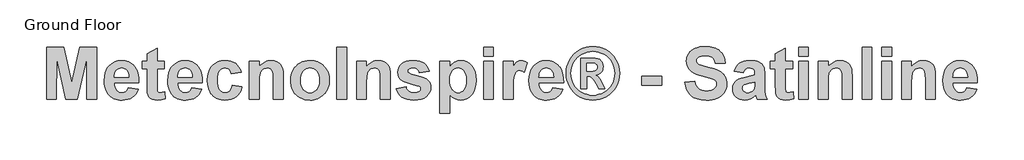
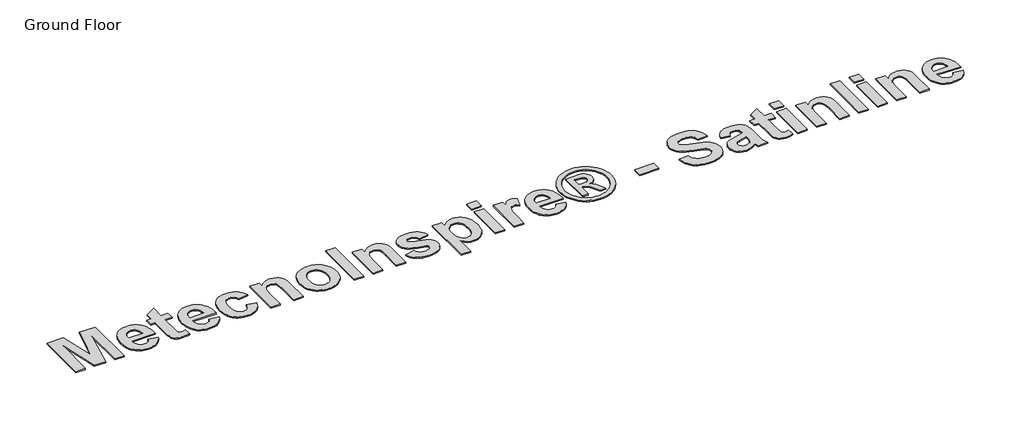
# One storey, part 5 of 14: 1 proxy.
"""IFC4 building model written with IfcOpenShell, lengths in millimetres."""

from ifc_helpers import new_model, si_unit, origin, origin_with_axes, place, context, project, spatial, polyline, outline, extrude, element, save

model = new_model("IFC4")

# Units and contexts
model_context = context("Model", 3, world=origin())
ifc_project = project(units=[si_unit("LENGTHUNIT", "METRE", prefix="MILLI")], contexts=[model_context])

# Site, building, storey
site = spatial("IfcSite", under=ifc_project)
building = spatial("IfcBuilding", under=site)
storey = spatial("IfcBuildingStorey", under=building, Name="Ground Floor", Elevation=0.0)

# Proxy
placement = place(None, origin())
element("IfcBuildingElementProxy", 1, Name="900mm Arial", ObjectType="900mm Arial", at=placement, inside=storey, context=model_context, shape_type="SweptSolid", body=[
    extrude(outline(polyline([(307.0358662, -102573.895371), (307.0358662, -101651.9315876), (607.954601, -101651.9315876), (753.3834121, -102280.7511323), (898.8122232, -101651.9315876), (1199.730958, -101651.9315876), (1199.730958, -102573.895371), (1024.1188088, -102573.895371), (1016.8016359, -101848.1232855), (856.2811558, -102573.895371), (650.7143301, -102573.895371), (489.9651883, -101848.1232855), (482.6480154, -102573.895371), (307.0358662, -102573.895371)])), origin_with_axes(), (0.0, 0.0, 1.0), 20.0),
    extrude(outline(polyline([(1755.8360972, -102369.0145302), (1931.4482464, -102398.2832217), (1912.4693293, -102442.0361998), (1888.6885174, -102480.2298415), (1860.1058108, -102512.8641467), (1826.7212095, -102539.9391155), (1788.6919184, -102561.1975036), (1746.1751424, -102576.3820664), (1699.1708814, -102585.4928041), (1647.6791355, -102588.5297167), (1606.5307566, -102586.7397247), (1568.1477545, -102581.3697487), (1532.5301292, -102572.4197887), (1499.6778809, -102559.8898447), (1469.5910093, -102543.7799167), (1442.2695147, -102524.0900047), (1417.7133969, -102500.8201087), (1395.922656, -102473.9702288), (1367.7115246, -102425.1080919), (1347.5607165, -102370.2150039), (1335.4702316, -102309.2909648), (1331.4400699, -102242.3359746), (1336.7850361, -102163.3905391), (1352.8199345, -102093.4772388), (1364.8461083, -102061.9076394), (1379.5447651, -102032.5960738), (1396.915905, -102005.542542), (1416.959528, -101980.747044), (1462.548945, -101939.3307022), (1487.4659195, -101923.0599965), (1513.7977379, -101909.7476009), (1541.5444003, -101899.3935154), (1570.7059067, -101891.9977401), (1633.2734514, -101886.0811199), (1669.0054075, -101887.5995761), (1702.8008852, -101892.154945), (1734.6598845, -101899.7472264), (1764.5824054, -101910.3764204), (1792.568448, -101924.042527), (1818.6180122, -101940.7455462), (1842.7310981, -101960.4854779), (1864.9077055, -101983.2623222), (1884.7333854, -102009.1761186), (1901.7936884, -102038.3269064), (1916.0886145, -102070.7146858), (1927.6181638, -102106.3394567), (1936.3823362, -102145.2012192), (1942.3811317, -102187.2999731), (1946.0825922, -102281.2084556), (1507.0522192, -102281.2084556), (1510.3249391, -102320.5096771), (1518.3138055, -102355.1805002), (1531.0188186, -102385.2209248), (1548.4399783, -102410.630951), (1569.4339763, -102430.8389245), (1592.8575043, -102445.2731914), (1618.7105624, -102453.9337514), (1646.9931506, -102456.8206048), (1683.8648421, -102451.6185522), (1714.4483381, -102436.0123944), (1727.3248474, -102424.021949), (1738.514977, -102408.8588232), (1755.8360972, -102369.0145302)]), holes=[polyline([(1770.470443, -102178.7680352), (1767.3406366, -102141.6891191), (1759.7805107, -102109.3406409), (1747.7900653, -102081.7226007), (1731.3693004, -102058.8349984), (1711.732981, -102040.877913), (1690.0958721, -102028.0514234), (1666.4579737, -102020.3555297), (1640.8192859, -102017.7902318), (1613.5799666, -102020.4912975), (1588.79876, -102028.5944949), (1566.4756661, -102042.0998237), (1546.6106851, -102061.0072841), (1530.4328731, -102084.6594738), (1518.9426251, -102112.1703289), (1512.1399409, -102143.5398494), (1510.0248206, -102178.7680352), (1770.470443, -102178.7680352)])]), origin_with_axes(), (0.0, 0.0, 1.0), 20.0),
    extrude(outline(polyline([(2399.747311, -101900.7154656), (2399.747311, -102032.4245775), (2268.0381991, -102032.4245775), (2268.0381991, -102321.2242448), (2269.0385938, -102390.5373083), (2272.039778, -102423.3216727), (2278.5852178, -102436.5840486), (2290.2183794, -102447.3311462), (2305.938868, -102454.4482402), (2324.746289, -102456.8206048), (2359.5028602, -102452.5903642), (2407.0644839, -102439.8996425), (2414.3816568, -102564.7489048), (2381.5544183, -102575.15301), (2346.6406422, -102582.5845138), (2270.5534773, -102588.5297167), (2223.7921693, -102584.413807), (2181.8327561, -102572.0660777), (2147.5620909, -102553.2014914), (2123.8670271, -102529.5350103), (2108.2322866, -102498.8371835), (2098.1425912, -102458.8785597), (2093.8551852, -102411.1454397), (2092.4260499, -102331.0566959), (2092.4260499, -102032.4245775), (2004.6199753, -102032.4245775), (2004.6199753, -101900.7154656), (2092.4260499, -101900.7154656), (2092.4260499, -101769.0063537), (2268.0381991, -101666.5659333), (2268.0381991, -101900.7154656), (2399.747311, -101900.7154656)])), origin_with_axes(), (0.0, 0.0, 1.0), 20.0),
    extrude(outline(polyline([(2882.6807214, -102369.0145302), (3058.2928706, -102398.2832217), (3039.3139534, -102442.0361998), (3015.5331415, -102480.2298415), (2986.950435, -102512.8641467), (2953.5658337, -102539.9391155), (2915.5365426, -102561.1975036), (2873.0197665, -102576.3820664), (2826.0155056, -102585.4928041), (2774.5237597, -102588.5297167), (2733.3753807, -102586.7397247), (2694.9923786, -102581.3697487), (2659.3747534, -102572.4197887), (2626.522505, -102559.8898447), (2596.4356335, -102543.7799167), (2569.1141388, -102524.0900047), (2544.5580211, -102500.8201087), (2522.7672801, -102473.9702288), (2494.5561487, -102425.1080919), (2474.4053406, -102370.2150039), (2462.3148557, -102309.2909648), (2458.2846941, -102242.3359746), (2463.6296602, -102163.3905391), (2479.6645586, -102093.4772388), (2491.6907324, -102061.9076394), (2506.3893893, -102032.5960738), (2523.7605292, -102005.542542), (2543.8041522, -101980.747044), (2589.3935692, -101939.3307022), (2614.3105436, -101923.0599965), (2640.6423621, -101909.7476009), (2668.3890245, -101899.3935154), (2697.5505309, -101891.9977401), (2760.1180756, -101886.0811199), (2795.8500316, -101887.5995761), (2829.6455093, -101892.154945), (2861.5045086, -101899.7472264), (2891.4270296, -101910.3764204), (2919.4130722, -101924.042527), (2945.4626364, -101940.7455462), (2969.5757222, -101960.4854779), (2991.7523297, -101983.2623222), (3011.5780095, -102009.1761186), (3028.6383125, -102038.3269064), (3042.9332386, -102070.7146858), (3054.4627879, -102106.3394567), (3063.2269603, -102145.2012192), (3069.2257558, -102187.2999731), (3072.9272163, -102281.2084556), (2633.8968433, -102281.2084556), (2637.1695632, -102320.5096771), (2645.1584297, -102355.1805002), (2657.8634428, -102385.2209248), (2675.2846024, -102410.630951), (2696.2786004, -102430.8389245), (2719.7021285, -102445.2731914), (2745.5551866, -102453.9337514), (2773.8377747, -102456.8206048), (2810.7094662, -102451.6185522), (2841.2929622, -102436.0123944), (2854.1694716, -102424.021949), (2865.3596012, -102408.8588232), (2882.6807214, -102369.0145302)]), holes=[polyline([(2897.3150671, -102178.7680352), (2894.1852608, -102141.6891191), (2886.6251349, -102109.3406409), (2874.6346895, -102081.7226007), (2858.2139245, -102058.8349984), (2838.5776051, -102040.877913), (2816.9404962, -102028.0514234), (2793.3025979, -102020.3555297), (2767.6639101, -102017.7902318), (2740.4245907, -102020.4912975), (2715.6433841, -102028.5944949), (2693.3202903, -102042.0998237), (2673.4553092, -102061.0072841), (2657.2774973, -102084.6594738), (2645.7872492, -102112.1703289), (2638.9845651, -102143.5398494), (2636.8694448, -102178.7680352), (2897.3150671, -102178.7680352)])]), origin_with_axes(), (0.0, 0.0, 1.0), 20.0),
    extrude(outline(polyline([(3760.7414675, -102090.9619606), (3585.1293182, -102120.2306521), (3579.7057497, -102096.3140724), (3571.6668634, -102075.5558818), (3561.0126596, -102057.9560802), (3547.743138, -102043.5146677), (3532.0726691, -102032.260227), (3514.2156232, -102024.2213407), (3494.1720002, -102019.398009), (3471.9418002, -102017.7902318), (3442.5301951, -102020.8057073), (3416.2626878, -102029.8521339), (3393.1392781, -102044.9295117), (3373.1599662, -102066.0378405), (3357.0536111, -102094.2060978), (3345.5490717, -102130.4632611), (3338.6463481, -102174.8093304), (3336.3454402, -102227.2443056), (3338.7392419, -102285.5101529), (3345.9206469, -102334.5437861), (3357.8896553, -102374.345205), (3374.646267, -102404.9144097), (3395.4330403, -102427.62337), (3419.4925336, -102443.844056), (3446.8247468, -102453.5764676), (3477.4296798, -102456.8206048), (3500.4601957, -102454.9698746), (3521.3041344, -102449.4176838), (3539.9614962, -102440.1640326), (3556.4322808, -102427.2089208), (3570.6736144, -102409.72345), (3582.6426228, -102386.8787218), (3592.339306, -102358.6747361), (3599.763664, -102325.1114929), (3775.3758132, -102354.3801844), (3759.1908556, -102408.7945121), (3736.9320729, -102456.1060371), (3708.599465, -102496.3147596), (3674.1930319, -102529.4206795), (3633.5698602, -102555.2808833), (3586.5870363, -102573.7524574), (3533.2445601, -102584.8354019), (3473.5424318, -102588.5297167), (3405.7085234, -102582.7131359), (3374.5087127, -102575.4424099), (3345.1203311, -102565.2633936), (3317.5433785, -102552.1760868), (3291.7778549, -102536.1804896), (3267.8237604, -102517.2766021), (3245.6810949, -102495.4644241), (3225.7714534, -102471.0833754), (3208.5164307, -102444.4728756), (3193.9160269, -102415.6329246), (3181.9702419, -102384.5635226), (3166.0425287, -102315.7363651), (3160.733291, -102237.9914032), (3166.0068003, -102159.3675231), (3181.8273284, -102089.9615659), (3193.6927245, -102058.7153083), (3208.1948752, -102029.7735315), (3225.3337807, -102003.1362354), (3245.1094408, -101978.80342), (3267.135989, -101957.0716309), (3291.0275589, -101938.2374137), (3316.7841504, -101922.3007683), (3344.4057634, -101909.2616949), (3373.8923981, -101899.1201933), (3405.2440544, -101891.8762636), (3473.5424318, -101886.0811199), (3529.4073318, -101889.2466546), (3579.2412807, -101898.7432589), (3623.0442785, -101914.5709326), (3660.8163253, -101936.7296759), (3693.129075, -101965.3624022), (3720.554182, -102000.6120251), (3743.0916461, -102042.4785446), (3760.7414675, -102090.9619606)])), origin_with_axes(), (0.0, 0.0, 1.0), 20.0),
    extrude(outline(polyline([(4507.0931016, -102573.895371), (4331.4809524, -102573.895371), (4331.4809524, -102227.9302905), (4328.7370126, -102137.3802761), (4320.5051931, -102085.7027426), (4306.0423436, -102057.0628706), (4284.6053136, -102035.6258407), (4257.2230807, -102022.249134), (4224.9246223, -102017.7902318), (4203.0945801, -102019.3837177), (4182.4221376, -102024.1641753), (4162.9072947, -102032.1316048), (4144.5500514, -102043.286006), (4128.1721605, -102057.077162), (4114.5953749, -102072.9548555), (4103.8196945, -102090.9190865), (4095.8451194, -102110.9698552), (4085.9840856, -102171.0221217), (4082.6970743, -102266.8027715), (4082.6970743, -102573.895371), (3907.0849251, -102573.895371), (3907.0849251, -101900.7154656), (4082.6970743, -101900.7154656), (4082.6970743, -101997.6680063), (4104.2377166, -101971.5148298), (4127.1288917, -101948.8487435), (4151.3705997, -101929.6697474), (4176.9628406, -101913.9778415), (4203.9056144, -101901.7730258), (4232.1989211, -101893.0553003), (4261.8427607, -101887.824665), (4292.8371331, -101886.0811199), (4346.229629, -101891.3975033), (4394.8202302, -101907.3466535), (4435.4076735, -101931.5276233), (4464.7906959, -101961.5394652), (4484.941504, -101996.6676116), (4497.8323047, -102036.1974948), (4504.7779024, -102086.9889644), (4507.0931016, -102155.90187), (4507.0931016, -102573.895371)])), origin_with_axes(), (0.0, 0.0, 1.0), 20.0),
    extrude(outline(polyline([(4638.8022135, -102227.7016289), (4641.510425, -102183.8057372), (4649.6350593, -102140.6101219), (4663.1761166, -102098.1147829), (4682.1335967, -102056.3197202), (4706.0501764, -102017.3257628), (4734.4685325, -101983.2337395), (4767.3886648, -101954.0436504), (4804.8105733, -101929.7554955), (4845.6409697, -101910.6479562), (4888.7865653, -101896.9997138), (4934.2473601, -101888.8107683), (4982.0233541, -101886.0811199), (5019.0111629, -101887.6281588), (5054.287582, -101892.2692758), (5087.8526117, -101900.0044708), (5119.7062517, -101910.8337437), (5149.8485022, -101924.7570947), (5178.2793632, -101941.7745236), (5204.9988346, -101961.8860305), (5230.0069164, -101985.0916154), (5252.6497793, -102010.6624193), (5272.2735938, -102037.8695831), (5288.8783599, -102066.7131069), (5302.4640776, -102097.1929906), (5313.0307469, -102129.3092343), (5320.5783679, -102163.0618379), (5326.6164646, -102235.4761251), (5325.0908627, -102272.7890621), (5320.5140568, -102308.469212), (5312.886047, -102342.5165748), (5302.2068332, -102374.9311505), (5288.4764155, -102405.712939), (5271.6947939, -102434.8619405), (5251.8619684, -102462.3781548), (5228.977939, -102488.261582), (5203.7822831, -102511.7619261), (5177.0145784, -102532.128891), (5148.6748248, -102549.3624766), (5118.7630224, -102563.4626831), (5087.2791711, -102574.4295103), (5054.2232709, -102582.2629583), (5019.5953219, -102586.9630271), (4983.395324, -102588.5297167), (4938.0845884, -102585.9215447), (4893.8457043, -102578.0970288), (4850.6786717, -102565.0561689), (4808.5834906, -102546.7989651), (4769.5109307, -102523.4969136), (4735.4117618, -102495.3215106), (4706.2859838, -102462.2727561), (4682.1335967, -102424.3506501), (4663.1761166, -102381.791), (4649.6350593, -102334.8296131), (4641.510425, -102283.4664894), (4638.8022135, -102227.7016289)]), holes=[polyline([(4814.4143628, -102237.3054183), (4817.4512753, -102287.3608832), (4826.5620131, -102331.1996094), (4841.7465759, -102368.8215969), (4863.0049639, -102400.2268458), (4888.7222542, -102424.9866154), (4917.2835237, -102442.6721651), (4948.6887726, -102453.2834949), (4982.9380007, -102456.8206048), (5017.1729375, -102453.2834949), (5048.5353123, -102442.6721651), (5077.0251251, -102424.9866154), (5102.6423759, -102400.2268458), (5123.8007244, -102368.7358488), (5138.9138305, -102330.8566169), (5147.9816942, -102286.5891501), (5151.0043154, -102235.9334484), (5147.9816942, -102186.4782203), (5138.9138305, -102143.0682347), (5123.8007244, -102105.7034915), (5102.6423759, -102074.3839908), (5077.0251251, -102049.6242212), (5048.5353123, -102031.9386715), (5017.1729375, -102021.3273417), (4982.9380007, -102017.7902318), (4948.6887726, -102021.3273417), (4917.2835237, -102031.9386715), (4888.7222542, -102049.6242212), (4863.0049639, -102074.3839908), (4841.7465759, -102105.7892396), (4826.5620131, -102143.4112272), (4817.4512753, -102187.2499534), (4814.4143628, -102237.3054183)])]), origin_with_axes(), (0.0, 0.0, 1.0), 20.0),
    extrude(outline(polyline([(5458.3255766, -102573.895371), (5458.3255766, -101651.9315876), (5633.9377258, -101651.9315876), (5633.9377258, -102573.895371), (5458.3255766, -102573.895371)])), origin_with_axes(), (0.0, 0.0, 1.0), 20.0),
    extrude(outline(polyline([(6409.5580515, -102573.895371), (6233.9459023, -102573.895371), (6233.9459023, -102227.9302905), (6231.2019624, -102137.3802761), (6222.9701429, -102085.7027426), (6208.5072934, -102057.0628706), (6187.0702635, -102035.6258407), (6159.6880306, -102022.249134), (6127.3895721, -102017.7902318), (6105.55953, -102019.3837177), (6084.8870875, -102024.1641753), (6065.3722445, -102032.1316048), (6047.0150012, -102043.286006), (6030.6371104, -102057.077162), (6017.0603247, -102072.9548555), (6006.2846444, -102090.9190865), (5998.3100692, -102110.9698552), (5988.4490355, -102171.0221217), (5985.1620242, -102266.8027715), (5985.1620242, -102573.895371), (5809.549875, -102573.895371), (5809.549875, -101900.7154656), (5985.1620242, -101900.7154656), (5985.1620242, -101997.6680063), (6006.7026665, -101971.5148298), (6029.5938416, -101948.8487435), (6053.8355496, -101929.6697474), (6079.4277905, -101913.9778415), (6106.3705643, -101901.7730258), (6134.663871, -101893.0553003), (6164.3077105, -101887.824665), (6195.302083, -101886.0811199), (6248.6945789, -101891.3975033), (6297.28518, -101907.3466535), (6337.8726234, -101931.5276233), (6367.2556457, -101961.5394652), (6387.4064539, -101996.6676116), (6400.2972546, -102036.1974948), (6407.2428522, -102086.9889644), (6409.5580515, -102155.90187), (6409.5580515, -102573.895371)])), origin_with_axes(), (0.0, 0.0, 1.0), 20.0),
    extrude(outline(polyline([(6511.9984719, -102383.648876), (6687.6106211, -102354.3801844), (6694.5347817, -102378.0180828), (6704.3315044, -102398.6262142), (6717.0007891, -102416.2045788), (6732.5426358, -102430.7531764), (6751.1999975, -102442.1576763), (6773.2158273, -102450.3037477), (6798.590125, -102455.1913905), (6827.3228908, -102456.8206048), (6858.7495767, -102455.2628473), (6886.0317701, -102450.5895748), (6909.1694711, -102442.8007872), (6928.1626796, -102431.8964847), (6945.3123036, -102411.5455976), (6951.0288449, -102385.2495075), (6947.999078, -102367.0709062), (6938.9097773, -102352.3222296), (6918.1587323, -102340.2603274), (6881.5157025, -102329.2274026), (6787.2070621, -102306.2754893), (6711.9059217, -102284.2953879), (6655.6122811, -102263.2870986), (6618.3261403, -102243.2506213), (6584.6128379, -102213.3959842), (6560.5319076, -102178.2535465), (6546.0833495, -102137.823308), (6541.2671634, -102092.1052689), (6545.3973645, -102050.2744778), (6557.7879678, -102011.9021942), (6578.4389733, -101976.9884181), (6607.350381, -101945.5331495), (6644.9509315, -101919.5228865), (6691.6693654, -101900.9441273), (6747.5056827, -101889.7968717), (6812.4598834, -101886.0811199), (6874.2985691, -101889.082304), (6927.6481909, -101898.0858566), (6972.5087489, -101913.0917776), (7008.880243, -101934.1000669), (7038.5062184, -101960.9963938), (7063.1302201, -101993.6664274), (7082.7522482, -102032.1101678), (7097.3723026, -102076.3276148), (6921.7601534, -102105.5963064), (6908.84077, -102068.0386299), (6887.9182288, -102040.4277354), (6874.1413642, -102030.5238275), (6857.7348906, -102023.4496077), (6817.0331165, -102017.7902318), (6767.01338, -102022.5921265), (6748.2202504, -102028.5944949), (6733.5716133, -102036.9978106), (6721.0523878, -102052.7754646), (6716.8793126, -102072.6690284), (6721.0523878, -102089.8758178), (6733.5716133, -102104.4529981), (6751.6859035, -102114.0424962), (6783.6199325, -102125.4327047), (6888.9472062, -102153.6152534), (6950.407171, -102170.4361762), (7001.8203145, -102189.114975), (7043.1866366, -102209.6516497), (7074.5061373, -102232.0462003), (7097.3151372, -102258.0421719), (7113.6072799, -102288.6971247), (7123.3825656, -102324.0110587), (7126.6409941, -102363.9839738), (7121.9177019, -102408.4372282), (7107.7478251, -102449.6463455), (7084.1313638, -102487.6113255), (7051.0683179, -102522.3321683), (7008.7444752, -102551.2935957), (6957.3456231, -102571.9803296), (6896.8717616, -102584.3923699), (6827.3228908, -102588.5297167), (6763.6048922, -102585.0855006), (6706.903948, -102574.7528522), (6657.2200583, -102557.5317714), (6614.5532231, -102533.4222584), (6578.7748201, -102503.3961252), (6549.7562272, -102468.4251837), (6527.4974445, -102428.5094339), (6511.9984719, -102383.648876)])), origin_with_axes(), (0.0, 0.0, 1.0), 20.0),
    extrude(outline(polyline([(7287.6187976, -101900.7154656), (7463.2309468, -101900.7154656), (7463.2309468, -101997.6680063), (7480.0232869, -101973.9300685), (7499.5309841, -101952.5644954), (7521.7540385, -101933.5712868), (7546.69245, -101916.950443), (7573.7173991, -101903.4451141), (7602.2000662, -101893.7984506), (7632.1404513, -101888.0104525), (7663.5385545, -101886.0811199), (7717.3383539, -101891.8190982), (7766.9222042, -101909.0330332), (7812.2901052, -101937.722925), (7853.442057, -101977.8887734), (7871.7439213, -102001.9643444), (7887.605537, -102028.2872308), (7912.0080228, -102087.6749493), (7926.6495142, -102156.0519292), (7931.5300114, -102233.4181702), (7926.4923093, -102312.978134), (7911.3792032, -102383.1343872), (7900.0443737, -102414.6861225), (7886.1906931, -102443.8869301), (7869.8181614, -102470.7368101), (7850.9267788, -102495.2357625), (7808.4886052, -102536.0518674), (7761.777317, -102565.2062282), (7710.7929141, -102582.6988446), (7655.5353966, -102588.5297167), (7603.4577053, -102583.0990025), (7556.5249011, -102566.8068597), (7511.0212322, -102537.3095065), (7463.2309468, -102492.263161), (7463.2309468, -102822.679249), (7287.6187976, -102822.679249), (7287.6187976, -101900.7154656)]), holes=[polyline([(7463.2309468, -102225.643674), (7465.9820323, -102280.8940458), (7474.2352888, -102328.4270869), (7487.9907164, -102368.2427971), (7507.2483149, -102400.3411766), (7530.4646183, -102425.0509264), (7556.0961605, -102442.7007478), (7584.1429413, -102453.2906405), (7614.6049608, -102456.8206048), (7643.637845, -102453.5836133), (7670.1411597, -102443.8726387), (7694.1149049, -102427.6876811), (7715.5590805, -102405.0287405), (7733.2160475, -102374.9811702), (7745.8281667, -102336.6303236), (7753.3954383, -102289.9762008), (7755.9178622, -102235.0188018), (7753.3239815, -102183.4555991), (7745.5423397, -102138.9809077), (7732.5729366, -102101.5947275), (7714.4157722, -102071.2970585), (7692.4142338, -102047.8878218), (7667.9117086, -102031.1669384), (7640.9081966, -102021.1344084), (7611.4036977, -102017.7902318), (7580.85593, -102021.0700973), (7553.0092282, -102030.9096941), (7527.863592, -102047.309022), (7505.4190217, -102070.268081), (7486.9617389, -102099.6582491), (7473.7779655, -102135.3509039), (7465.8677015, -102177.3460456), (7463.2309468, -102225.643674)])]), origin_with_axes(), (0.0, 0.0, 1.0), 20.0),
    extrude(outline(polyline([(8063.2391233, -101812.909391), (8063.2391233, -101651.9315876), (8238.8512725, -101651.9315876), (8238.8512725, -101812.909391), (8063.2391233, -101812.909391)])), origin_with_axes(), (0.0, 0.0, 1.0), 20.0),
    extrude(outline(polyline([(8063.2391233, -102573.895371), (8063.2391233, -101900.7154656), (8238.8512725, -101900.7154656), (8238.8512725, -102573.895371), (8063.2391233, -102573.895371)])), origin_with_axes(), (0.0, 0.0, 1.0), 20.0),
    extrude(outline(polyline([(8590.0755709, -102573.895371), (8414.4634217, -102573.895371), (8414.4634217, -101900.7154656), (8590.0755709, -101900.7154656), (8590.0755709, -101994.4667432), (8627.1759241, -101939.3307022), (8644.2255085, -101920.3160567), (8660.2746983, -101907.0036611), (8693.5449687, -101891.3117552), (8731.1598106, -101886.0811199), (8758.8135792, -101888.3963191), (8785.9814418, -101895.3419168), (8812.6633984, -101906.9179129), (8838.859449, -101923.1243076), (8787.6392388, -102090.2759756), (8745.3368331, -102068.8389457), (8725.3861039, -102063.4796882), (8706.2356905, -102061.6932691), (8672.479514, -102066.6952427), (8644.3827134, -102081.7011637), (8632.4208507, -102093.7130461), (8621.8023752, -102109.7407988), (8604.5955859, -102153.8439151), (8598.2430793, -102187.0570201), (8593.7055747, -102234.5614785), (8590.0755709, -102372.444455), (8590.0755709, -102573.895371)])), origin_with_axes(), (0.0, 0.0, 1.0), 20.0),
    extrude(outline(polyline([(9292.5241678, -102369.0145302), (9468.136317, -102398.2832217), (9449.1573999, -102442.0361998), (9425.376588, -102480.2298415), (9396.7938814, -102512.8641467), (9363.4092801, -102539.9391155), (9325.379989, -102561.1975036), (9282.863213, -102576.3820664), (9235.858952, -102585.4928041), (9184.3672061, -102588.5297167), (9143.2188272, -102586.7397247), (9104.8358251, -102581.3697487), (9069.2181998, -102572.4197887), (9036.3659514, -102559.8898447), (9006.2790799, -102543.7799167), (8978.9575853, -102524.0900047), (8954.4014675, -102500.8201087), (8932.6107266, -102473.9702288), (8904.3995952, -102425.1080919), (8884.248787, -102370.2150039), (8872.1583022, -102309.2909648), (8868.1281405, -102242.3359746), (8873.4731067, -102163.3905391), (8889.508005, -102093.4772388), (8901.5341788, -102061.9076394), (8916.2328357, -102032.5960738), (8933.6039756, -102005.542542), (8953.6475986, -101980.747044), (8999.2370156, -101939.3307022), (9024.1539901, -101923.0599965), (9050.4858085, -101909.7476009), (9078.2324709, -101899.3935154), (9107.3939773, -101891.9977401), (9169.961522, -101886.0811199), (9205.6934781, -101887.5995761), (9239.4889557, -101892.154945), (9271.3479551, -101899.7472264), (9301.270476, -101910.3764204), (9329.2565186, -101924.042527), (9355.3060828, -101940.7455462), (9379.4191686, -101960.4854779), (9401.5957761, -101983.2623222), (9421.421456, -102009.1761186), (9438.4817589, -102038.3269064), (9452.7766851, -102070.7146858), (9464.3062343, -102106.3394567), (9473.0704067, -102145.2012192), (9479.0692023, -102187.2999731), (9482.7706628, -102281.2084556), (9043.7402897, -102281.2084556), (9047.0130096, -102320.5096771), (9055.0018761, -102355.1805002), (9067.7068892, -102385.2209248), (9085.1280489, -102410.630951), (9106.1220469, -102430.8389245), (9129.5455749, -102445.2731914), (9155.398633, -102453.9337514), (9183.6812212, -102456.8206048), (9220.5529126, -102451.6185522), (9251.1364087, -102436.0123944), (9264.012918, -102424.021949), (9275.2030476, -102408.8588232), (9292.5241678, -102369.0145302)]), holes=[polyline([(9307.1585136, -102178.7680352), (9304.0287072, -102141.6891191), (9296.4685813, -102109.3406409), (9284.4781359, -102081.7226007), (9268.057371, -102058.8349984), (9248.4210516, -102040.877913), (9226.7839427, -102028.0514234), (9203.1460443, -102020.3555297), (9177.5073565, -102017.7902318), (9150.2680372, -102020.4912975), (9125.4868306, -102028.5944949), (9103.1637367, -102042.0998237), (9083.2987557, -102061.0072841), (9067.1209437, -102084.6594738), (9055.6306957, -102112.1703289), (9048.8280115, -102143.5398494), (9046.7128912, -102178.7680352), (9307.1585136, -102178.7680352)])]), origin_with_axes(), (0.0, 0.0, 1.0), 20.0),
    extrude(outline(polyline([(10002.2899376, -101637.2972418), (10062.8352558, -101641.1201788), (10122.1372262, -101652.5889898), (10180.195849, -101671.7036748), (10237.011124, -101698.4642339), (10290.1963952, -101732.3633239), (10337.3650068, -101772.8936018), (10378.5169586, -101820.0550677), (10413.6522506, -101873.8477214), (10441.7633426, -101931.6205171), (10461.8426939, -101990.7224086), (10473.8903047, -102051.153396), (10477.906175, -102112.9134793), (10473.9689072, -102174.2805503), (10462.1571037, -102234.218486), (10442.4707645, -102292.7272863), (10414.9098897, -102349.8069514), (10380.3033777, -102403.0636794), (10339.4801271, -102450.1036688), (10292.4401377, -102490.9269194), (10239.1834097, -102525.5334314), (10182.1037446, -102553.0943062), (10123.5949443, -102572.7806454), (10063.6570086, -102584.5924489), (10002.2899376, -102588.5297167), (9940.9228665, -102584.5924489), (9880.9849308, -102572.7806454), (9822.4761305, -102553.0943062), (9765.3964654, -102525.5334314), (9712.1397374, -102490.9269194), (9665.0997481, -102450.1036688), (9624.2764974, -102403.0636794), (9589.6699854, -102349.8069514), (9562.1091106, -102292.7272863), (9542.4227714, -102234.218486), (9530.6109679, -102174.2805503), (9526.6737001, -102112.9134793), (9530.6895704, -102051.153396), (9542.7371812, -101990.7224086), (9562.8165326, -101931.6205171), (9590.9276245, -101873.8477214), (9626.0629165, -101820.0550677), (9667.2148683, -101772.8936018), (9714.3834799, -101732.3633239), (9767.5687511, -101698.4642339), (9824.3840261, -101671.7036748), (9882.4426489, -101652.5889898), (9941.7446193, -101641.1201788), (10002.2899376, -101637.2972418)]), holes=[polyline([(10002.0612759, -101725.1033164), (9952.73467, -101728.2116857), (9904.4513329, -101737.5367938), (9857.2112646, -101753.0786405), (9811.0144651, -101774.8372258), (9767.7616844, -101802.412392), (9729.3536724, -101835.4039811), (9695.7904292, -101873.8119931), (9667.0719548, -101917.6364279), (9644.062876, -101964.726437), (9627.6278197, -102012.9311716), (9617.766786, -102062.2506318), (9614.4797747, -102112.6848176), (9617.6881835, -102162.7402825), (9627.31341, -102211.6095651), (9643.355454, -102259.2926653), (9665.8143157, -102305.7895832), (9694.0254471, -102349.1781318), (9727.3243003, -102387.5361241), (9765.7108752, -102420.8635599), (9809.1851719, -102449.1604394), (9855.7535466, -102471.7193406), (9903.4223555, -102487.8328414), (9952.1915986, -102497.5009419), (10002.0612759, -102500.7236421), (10052.1095951, -102497.5009419), (10100.9574407, -102487.8328414), (10148.6048125, -102471.7193406), (10195.0517107, -102449.1604394), (10238.3973852, -102420.8635599), (10276.7410861, -102387.5361241), (10310.0828133, -102349.1781318), (10338.4225669, -102305.7895832), (10361.0314878, -102259.2926653), (10377.180717, -102211.6095651), (10386.8702546, -102162.7402825), (10390.1001004, -102112.6848176), (10386.8130892, -102062.2506318), (10376.9520554, -102012.9311716), (10360.5169991, -101964.726437), (10337.5079203, -101917.6364279), (10308.7680088, -101873.8119931), (10275.1404546, -101835.4039811), (10236.6252574, -101802.412392), (10193.2224175, -101774.8372258), (10146.8898501, -101753.0786405), (10099.5854708, -101737.5367938), (10051.3092793, -101728.2116857), (10002.0612759, -101725.1033164)])]), origin_with_axes(), (0.0, 0.0, 1.0), 20.0),
    extrude(outline(polyline([(9790.0919239, -102383.648876), (9790.0919239, -101842.1780825), (9889.1024195, -101842.1780825), (10044.8210049, -101843.5500525), (10088.5239633, -101851.2388005), (10121.3083278, -101865.1585786), (10146.3753614, -101886.6813567), (10166.9263275, -101917.1791046), (10180.6460266, -101954.0507961), (10185.2192597, -101994.6954048), (10183.0969937, -102022.9065362), (10176.7301958, -102049.0025473), (10166.118866, -102072.9834382), (10151.2630042, -102094.8492087), (10132.5627685, -102113.6852123), (10110.4183165, -102128.5768025), (10084.8296485, -102139.5239791), (10055.7967643, -102146.5267422), (10076.0619032, -102156.3020278), (10091.1249896, -102166.8776293), (10125.3099067, -102208.4940501), (10162.5817561, -102274.348606), (10214.4879512, -102383.648876), (10112.0475308, -102383.648876), (10061.5133056, -102296.9861096), (10016.5527081, -102225.643674), (9984.1113362, -102186.7711931), (9970.1415383, -102176.8672852), (9954.413904, -102169.7930653), (9917.6851261, -102164.1336894), (9892.5323443, -102164.1336894), (9892.5323443, -102383.648876), (9790.0919239, -102383.648876)]), holes=[polyline([(9892.5323443, -102076.3276148), (9932.5481335, -102076.3276148), (10001.661118, -102074.5269043), (10038.4184787, -102069.1247728), (10056.8257417, -102059.1779909), (10070.8884333, -102043.7433293), (10079.8062378, -102024.3356716), (10082.7788393, -102002.469901), (10079.8634032, -101981.2901155), (10071.117095, -101962.5684427), (10056.9972379, -101947.5625217), (10037.9611554, -101937.5299917), (10000.8608022, -101931.8706158), (9932.5481335, -101929.9841572), (9892.5323443, -101929.9841572), (9892.5323443, -102076.3276148)])]), origin_with_axes(), (0.0, 0.0, 1.0), 20.0),
    extrude(outline(polyline([(10873.0335108, -102325.1114929), (10873.0335108, -102164.1336894), (11224.2578092, -102164.1336894), (11224.2578092, -102325.1114929), (10873.0335108, -102325.1114929)])), origin_with_axes(), (0.0, 0.0, 1.0), 20.0),
    extrude(outline(polyline([(11634.0194907, -102266.5741098), (11809.6316399, -102251.9397641), (11820.2644068, -102294.2135871), (11835.241745, -102330.4850417), (11854.5636547, -102360.754128), (11878.2301357, -102385.0208459), (11906.3126449, -102403.6281879), (11938.8826391, -102416.9191464), (11975.9401181, -102424.8937216), (12017.4850822, -102427.5519133), (12061.1451665, -102425.2009857), (12099.0601267, -102418.1482028), (12131.229963, -102406.3935647), (12157.6546752, -102389.9370714), (12178.2628067, -102370.3364804), (12192.9829006, -102349.1495491), (12201.8149569, -102326.3762777), (12204.7589757, -102302.016666), (12199.8713328, -102272.1477376), (12185.2084044, -102247.0235385), (12158.3120775, -102225.7865875), (12116.7242394, -102207.5794034), (11964.4355788, -102168.4782608), (11893.7505454, -102149.3993042), (11834.4414292, -102128.0623137), (11786.5082303, -102104.4672895), (11749.9509486, -102078.6142314), (11712.0359883, -102038.5841508), (11684.9538738, -101994.4095778), (11668.7046051, -101946.0905123), (11663.2881822, -101893.6269544), (11665.7748777, -101859.0990448), (11673.2349641, -101825.7144436), (11685.6684415, -101793.4731505), (11703.0753098, -101762.3751658), (11725.169742, -101733.663837), (11751.665911, -101708.582512), (11782.5638168, -101687.1311907), (11817.8634594, -101669.3098732), (11857.2933031, -101655.3043469), (11900.5818123, -101645.3003996), (11947.7289868, -101639.2980313), (11998.7348266, -101637.2972418), (12079.9311504, -101642.2849241), (12150.4232505, -101657.247971), (12181.6552167, -101668.4702562), (12210.2111269, -101682.1863825), (12236.0909813, -101698.3963499), (12259.2947798, -101717.1001586), (12297.831414, -101760.3315023), (12325.9782343, -101810.2226166), (12343.7352407, -101866.7735016), (12351.1024333, -101929.9841572), (12175.4902841, -101929.9841572), (12167.5514374, -101897.3498519), (12156.0826264, -101869.6460636), (12141.0838511, -101846.8727921), (12122.5551115, -101829.0300375), (12099.7246747, -101815.5747284), (12071.8208074, -101805.9637933), (12038.8435097, -101800.1972323), (12000.7927815, -101798.2750452), (11961.1199848, -101800.3187088), (11926.0204211, -101806.4496993), (11895.4940905, -101816.6680169), (11869.5409929, -101830.9736616), (11856.1357035, -101842.3781615), (11846.5604968, -101855.5547892), (11840.8153728, -101870.5035448), (11838.9003315, -101887.2244281), (11840.6438766, -101902.7591291), (11845.8745119, -101917.1219392), (11854.5922374, -101930.3128583), (11866.7970531, -101942.3318864), (11890.842255, -101956.9733778), (11927.5353046, -101971.8578223), (12038.8649467, -102002.3555702), (12157.6832579, -102034.0823745), (12203.7371439, -102050.5031394), (12240.8875168, -102067.2954796), (12271.8140053, -102085.8385105), (12299.1962382, -102107.5113477), (12323.0342155, -102132.3139913), (12343.3279372, -102160.2464414), (12359.5343318, -102191.4730483), (12371.1103279, -102226.1581627), (12378.0559256, -102264.3017847), (12380.3711249, -102305.9039141), (12377.6343307, -102344.6048988), (12369.4239483, -102382.0482444), (12355.7399775, -102418.2339509), (12336.5824184, -102453.1620184), (12312.41574, -102485.2603979), (12283.7044112, -102512.9570405), (12250.4484321, -102536.2519464), (12212.6478027, -102555.1451154), (12170.1095896, -102569.7508785), (12122.6408597, -102580.1835664), (12070.2416128, -102586.4431791), (12012.9118491, -102588.5297167), (11930.8508985, -102583.3919752), (11858.9082261, -102567.9787507), (11826.7312441, -102556.4188323), (11797.0838317, -102542.2900432), (11769.9659889, -102525.5923833), (11745.3777155, -102506.3258526), (11723.2296908, -102484.5976363), (11703.4325936, -102460.5149196), (11685.9864241, -102434.0777025), (11670.8911822, -102405.2859848), (11647.7534812, -102340.6390482), (11634.0194907, -102266.5741098)])), origin_with_axes(), (0.0, 0.0, 1.0), 20.0),
    extrude(outline(polyline([(12673.0580402, -102105.5963064), (12512.0802368, -102076.3276148), (12527.2076343, -102030.9954422), (12546.9797215, -101991.951465), (12571.3964986, -101959.1956833), (12600.4579655, -101932.728097), (12635.6361317, -101912.3200445), (12678.4030064, -101897.7428641), (12728.7585897, -101888.9965559), (12786.7028816, -101886.0811199), (12839.2521876, -101887.846102), (12884.6272343, -101893.1410484), (12922.8280217, -101901.965959), (12953.8545497, -101914.320834), (12979.2645758, -101929.3839203), (13000.6158576, -101946.3334653), (13017.9083951, -101965.169469), (13031.1421883, -101985.8919312), (13040.9460566, -102012.0951275), (13047.9488197, -102047.3733331), (13052.1504776, -102091.726548), (13053.5510302, -102145.1547723), (13053.5510302, -102352.7795529), (13055.8662294, -102429.8385298), (13062.8118271, -102483.5740182), (13076.1027857, -102527.1912284), (13097.4540675, -102573.895371), (12921.8419183, -102573.895371), (12905.3782793, -102518.1019277), (12899.2044147, -102495.9217474), (12853.7579112, -102536.3662772), (12805.2244755, -102565.320559), (12753.4897766, -102582.7274273), (12698.4394837, -102588.5297167), (12651.0136278, -102585.0068981), (12608.889864, -102574.4384424), (12572.0681922, -102556.8243494), (12540.5486125, -102532.1646193), (12515.2886456, -102502.1313404), (12497.2458121, -102468.396601), (12486.420112, -102430.960401), (12482.8115453, -102389.8227406), (12484.4193225, -102362.1260979), (12489.2426542, -102335.9729214), (12497.2815405, -102311.363211), (12508.5359812, -102288.2969668), (12522.6915666, -102267.3029688), (12539.433887, -102248.9099972), (12558.7629423, -102233.1180518), (12580.6787326, -102219.9271327), (12637.329657, -102197.689787), (12714.4457994, -102178.5393736), (12814.3137762, -102155.9590354), (12877.938881, -102134.8649979), (12877.938881, -102116.343404), (12872.479584, -102070.7254043), (12865.6554628, -102053.6615285), (12856.1016932, -102040.4277354), (12842.7750062, -102030.5238275), (12824.6321332, -102023.4496077), (12801.6730742, -102019.2050757), (12773.8978291, -102017.7902318), (12737.4834609, -102022.6492919), (12722.6633275, -102028.723117), (12710.101228, -102037.2264722), (12689.4073484, -102064.037051), (12673.0580402, -102105.5963064)]), holes=[polyline([(12877.938881, -102266.5741098), (12778.9283854, -102290.9265758), (12722.9062805, -102304.9035193), (12690.2076642, -102318.7089666), (12676.3021774, -102330.4421677), (12666.3696869, -102343.6902522), (12660.4101926, -102358.4532201), (12658.4236945, -102374.7310715), (12660.0171804, -102390.8588637), (12664.797638, -102405.857639), (12672.7650675, -102419.7273973), (12683.9194687, -102432.4681388), (12697.5319828, -102443.1223427), (12712.8737505, -102450.7324883), (12729.944772, -102455.2985757), (12748.7450473, -102456.8206048), (12770.539361, -102455.048477), (12791.7906034, -102449.7320936), (12812.4987743, -102440.8714545), (12832.6638738, -102428.4665599), (12857.2450014, -102404.5714172), (12871.5363547, -102375.8743798), (12876.3382494, -102346.3198612), (12877.938881, -102298.3580795), (12877.938881, -102266.5741098)])]), origin_with_axes(), (0.0, 0.0, 1.0), 20.0),
    extrude(outline(polyline([(13551.1187863, -101900.7154656), (13551.1187863, -102032.4245775), (13419.4096744, -102032.4245775), (13419.4096744, -102321.2242448), (13420.4100691, -102390.5373083), (13423.4112533, -102423.3216727), (13429.9566931, -102436.5840486), (13441.5898547, -102447.3311462), (13457.3103433, -102454.4482402), (13476.1177643, -102456.8206048), (13510.8743355, -102452.5903642), (13558.4359592, -102439.8996425), (13565.7531321, -102564.7489048), (13532.9258936, -102575.15301), (13498.0121175, -102582.5845138), (13421.9249526, -102588.5297167), (13375.1636446, -102584.413807), (13333.2042314, -102572.0660777), (13298.9335662, -102553.2014914), (13275.2385024, -102529.5350103), (13259.6037619, -102498.8371835), (13249.5140665, -102458.8785597), (13245.2266605, -102411.1454397), (13243.7975252, -102331.0566959), (13243.7975252, -102032.4245775), (13155.9914506, -102032.4245775), (13155.9914506, -101900.7154656), (13243.7975252, -101900.7154656), (13243.7975252, -101769.0063537), (13419.4096744, -101666.5659333), (13419.4096744, -101900.7154656), (13551.1187863, -101900.7154656)])), origin_with_axes(), (0.0, 0.0, 1.0), 20.0),
    extrude(outline(polyline([(13653.5592067, -101812.909391), (13653.5592067, -101651.9315876), (13829.1713559, -101651.9315876), (13829.1713559, -101812.909391), (13653.5592067, -101812.909391)])), origin_with_axes(), (0.0, 0.0, 1.0), 20.0),
    extrude(outline(polyline([(13653.5592067, -102573.895371), (13653.5592067, -101900.7154656), (13829.1713559, -101900.7154656), (13829.1713559, -102573.895371), (13653.5592067, -102573.895371)])), origin_with_axes(), (0.0, 0.0, 1.0), 20.0),
    extrude(outline(polyline([(14604.7916816, -102573.895371), (14429.1795324, -102573.895371), (14429.1795324, -102227.9302905), (14426.4355926, -102137.3802761), (14418.2037731, -102085.7027426), (14403.7409236, -102057.0628706), (14382.3038936, -102035.6258407), (14354.9216607, -102022.249134), (14322.6232023, -102017.7902318), (14300.7931601, -102019.3837177), (14280.1207176, -102024.1641753), (14260.6058747, -102032.1316048), (14242.2486314, -102043.286006), (14225.8707405, -102057.077162), (14212.2939549, -102072.9548555), (14201.5182745, -102090.9190865), (14193.5436994, -102110.9698552), (14183.6826656, -102171.0221217), (14180.3956544, -102266.8027715), (14180.3956544, -102573.895371), (14004.7835051, -102573.895371), (14004.7835051, -101900.7154656), (14180.3956544, -101900.7154656), (14180.3956544, -101997.6680063), (14201.9362966, -101971.5148298), (14224.8274717, -101948.8487435), (14249.0691798, -101929.6697474), (14274.6614207, -101913.9778415), (14301.6041944, -101901.7730258), (14329.8975011, -101893.0553003), (14359.5413407, -101887.824665), (14390.5357131, -101886.0811199), (14443.928209, -101891.3975033), (14492.5188102, -101907.3466535), (14533.1062535, -101931.5276233), (14562.4892759, -101961.5394652), (14582.640084, -101996.6676116), (14595.5308847, -102036.1974948), (14602.4764824, -102086.9889644), (14604.7916816, -102155.90187), (14604.7916816, -102573.895371)])), origin_with_axes(), (0.0, 0.0, 1.0), 20.0),
    extrude(outline(polyline([(14780.4038309, -102573.895371), (14780.4038309, -101651.9315876), (14956.0159801, -101651.9315876), (14956.0159801, -102573.895371), (14780.4038309, -102573.895371)])), origin_with_axes(), (0.0, 0.0, 1.0), 20.0),
    extrude(outline(polyline([(15131.6281293, -101812.909391), (15131.6281293, -101651.9315876), (15307.2402785, -101651.9315876), (15307.2402785, -101812.909391), (15131.6281293, -101812.909391)])), origin_with_axes(), (0.0, 0.0, 1.0), 20.0),
    extrude(outline(polyline([(15131.6281293, -102573.895371), (15131.6281293, -101900.7154656), (15307.2402785, -101900.7154656), (15307.2402785, -102573.895371), (15131.6281293, -102573.895371)])), origin_with_axes(), (0.0, 0.0, 1.0), 20.0),
    extrude(outline(polyline([(16082.8606042, -102573.895371), (15907.248455, -102573.895371), (15907.248455, -102227.9302905), (15904.5045152, -102137.3802761), (15896.2726957, -102085.7027426), (15881.8098461, -102057.0628706), (15860.3728162, -102035.6258407), (15832.9905833, -102022.249134), (15800.6921249, -102017.7902318), (15778.8620827, -102019.3837177), (15758.1896402, -102024.1641753), (15738.6747973, -102032.1316048), (15720.317554, -102043.286006), (15703.9396631, -102057.077162), (15690.3628775, -102072.9548555), (15679.5871971, -102090.9190865), (15671.612622, -102110.9698552), (15661.7515882, -102171.0221217), (15658.4645769, -102266.8027715), (15658.4645769, -102573.895371), (15482.8524277, -102573.895371), (15482.8524277, -101900.7154656), (15658.4645769, -101900.7154656), (15658.4645769, -101997.6680063), (15680.0052192, -101971.5148298), (15702.8963943, -101948.8487435), (15727.1381023, -101929.6697474), (15752.7303432, -101913.9778415), (15779.673117, -101901.7730258), (15807.9664237, -101893.0553003), (15837.6102633, -101887.824665), (15868.6046357, -101886.0811199), (15921.9971316, -101891.3975033), (15970.5877328, -101907.3466535), (16011.1751761, -101931.5276233), (16040.5581985, -101961.5394652), (16060.7090066, -101996.6676116), (16073.5998073, -102036.1974948), (16080.545405, -102086.9889644), (16082.8606042, -102155.90187), (16082.8606042, -102573.895371)])), origin_with_axes(), (0.0, 0.0, 1.0), 20.0),
    extrude(outline(polyline([(16638.9657434, -102369.0145302), (16814.5778926, -102398.2832217), (16795.5989755, -102442.0361998), (16771.8181636, -102480.2298415), (16743.235457, -102512.8641467), (16709.8508557, -102539.9391155), (16671.8215646, -102561.1975036), (16629.3047886, -102576.3820664), (16582.3005276, -102585.4928041), (16530.8087817, -102588.5297167), (16489.6604028, -102586.7397247), (16451.2774007, -102581.3697487), (16415.6597754, -102572.4197887), (16382.8075271, -102559.8898447), (16352.7206555, -102543.7799167), (16325.3991609, -102524.0900047), (16300.8430431, -102500.8201087), (16279.0523022, -102473.9702288), (16250.8411708, -102425.1080919), (16230.6903626, -102370.2150039), (16218.5998778, -102309.2909648), (16214.5697161, -102242.3359746), (16219.9146823, -102163.3905391), (16235.9495807, -102093.4772388), (16247.9757544, -102061.9076394), (16262.6744113, -102032.5960738), (16280.0455512, -102005.542542), (16300.0891742, -101980.747044), (16345.6785912, -101939.3307022), (16370.5955657, -101923.0599965), (16396.9273841, -101909.7476009), (16424.6740465, -101899.3935154), (16453.8355529, -101891.9977401), (16516.4030976, -101886.0811199), (16552.1350537, -101887.5995761), (16585.9305314, -101892.154945), (16617.7895307, -101899.7472264), (16647.7120516, -101910.3764204), (16675.6980942, -101924.042527), (16701.7476584, -101940.7455462), (16725.8607442, -101960.4854779), (16748.0373517, -101983.2623222), (16767.8630316, -102009.1761186), (16784.9233345, -102038.3269064), (16799.2182607, -102070.7146858), (16810.7478099, -102106.3394567), (16819.5119823, -102145.2012192), (16825.5107779, -102187.2999731), (16829.2122384, -102281.2084556), (16390.1818653, -102281.2084556), (16393.4545853, -102320.5096771), (16401.4434517, -102355.1805002), (16414.1484648, -102385.2209248), (16431.5696245, -102410.630951), (16452.5636225, -102430.8389245), (16475.9871505, -102445.2731914), (16501.8402086, -102453.9337514), (16530.1227968, -102456.8206048), (16566.9944882, -102451.6185522), (16597.5779843, -102436.0123944), (16610.4544936, -102424.021949), (16621.6446232, -102408.8588232), (16638.9657434, -102369.0145302)]), holes=[polyline([(16653.6000892, -102178.7680352), (16650.4702828, -102141.6891191), (16642.9101569, -102109.3406409), (16630.9197115, -102081.7226007), (16614.4989466, -102058.8349984), (16594.8626272, -102040.877913), (16573.2255183, -102028.0514234), (16549.5876199, -102020.3555297), (16523.9489321, -102017.7902318), (16496.7096128, -102020.4912975), (16471.9284062, -102028.5944949), (16449.6053123, -102042.0998237), (16429.7403313, -102061.0072841), (16413.5625193, -102084.6594738), (16402.0722713, -102112.1703289), (16395.2695871, -102143.5398494), (16393.1544668, -102178.7680352), (16653.6000892, -102178.7680352)])]), origin_with_axes(), (0.0, 0.0, 1.0), 20.0),
])

save(model, "model.ifc")
